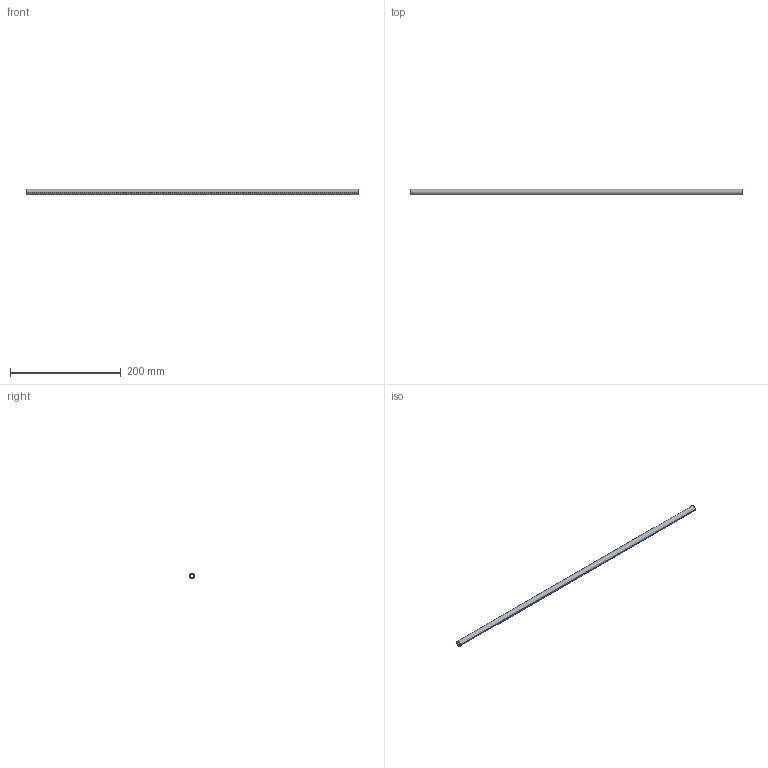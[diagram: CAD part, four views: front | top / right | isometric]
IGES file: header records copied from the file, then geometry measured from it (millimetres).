
Start section: START RECORD GO HERE.
Global section: file name: te106600.igs; native system: DASSAULT SYSTEMES CATIA V5 R20 - www.3ds.com; preprocessor: CATIA Version 5 Release 20 ; author: Utente; organization: NB04-ASUS; date: 20201107.142612; units: millimetre
Bounding box: 600 x 10 x 10 mm (x, y, z)
Surface area: 30611.7 mm2 (no closed solid volume)
Topology: 0 solids, 0 shells, 9 faces, 36 edges, 36 vertices
Faces by surface type: revolution 6, plane 3
